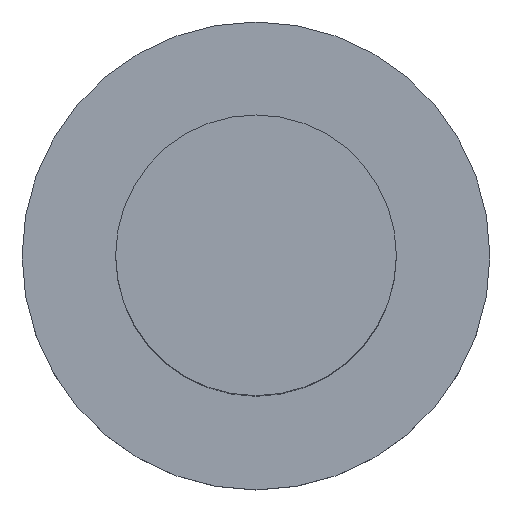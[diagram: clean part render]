
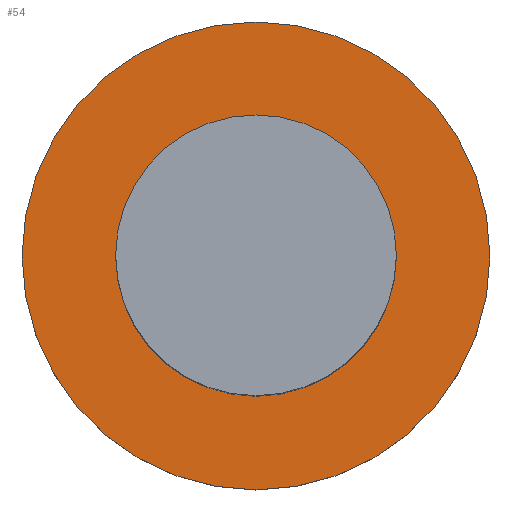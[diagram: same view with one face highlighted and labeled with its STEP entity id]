
A CAD part, top view. The second image highlights one B-rep face of the part: STEP entity #54.
In plain terms, the highlighted planar face has unit normal (0, 0, 1).
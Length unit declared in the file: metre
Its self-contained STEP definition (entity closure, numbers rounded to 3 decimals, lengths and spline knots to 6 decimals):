
#12=PLANE('',#74);
#17=ORIENTED_EDGE('',*,*,#25,.F.);
#18=ORIENTED_EDGE('',*,*,#23,.T.);
#23=EDGE_CURVE('',#27,#27,#31,.T.);
#25=EDGE_CURVE('',#29,#29,#33,.T.);
#27=VERTEX_POINT('',#103);
#29=VERTEX_POINT('',#108);
#31=CIRCLE('',#72,0.004);
#33=CIRCLE('',#75,0.0024);
#37=EDGE_LOOP('',(#17));
#38=EDGE_LOOP('',(#18));
#45=FACE_BOUND('',#37,.T.);
#46=FACE_BOUND('',#38,.T.);
#54=ADVANCED_FACE('',(#45,#46),#12,.T.);
#72=AXIS2_PLACEMENT_3D('',#102,#84,#85);
#74=AXIS2_PLACEMENT_3D('',#106,#88,#89);
#75=AXIS2_PLACEMENT_3D('',#107,#90,#91);
#84=DIRECTION('',(0.,0.,1.));
#85=DIRECTION('',(1.,0.,0.));
#88=DIRECTION('',(0.,0.,1.));
#89=DIRECTION('',(1.,0.,0.));
#90=DIRECTION('',(0.,0.,1.));
#91=DIRECTION('',(1.,0.,0.));
#102=CARTESIAN_POINT('',(0.095,0.042,0.0052));
#103=CARTESIAN_POINT('',(0.099,0.042,0.0052));
#106=CARTESIAN_POINT('',(0.06096,0.05461,0.0052));
#107=CARTESIAN_POINT('',(0.095,0.042,0.0052));
#108=CARTESIAN_POINT('',(0.0974,0.042,0.0052));
